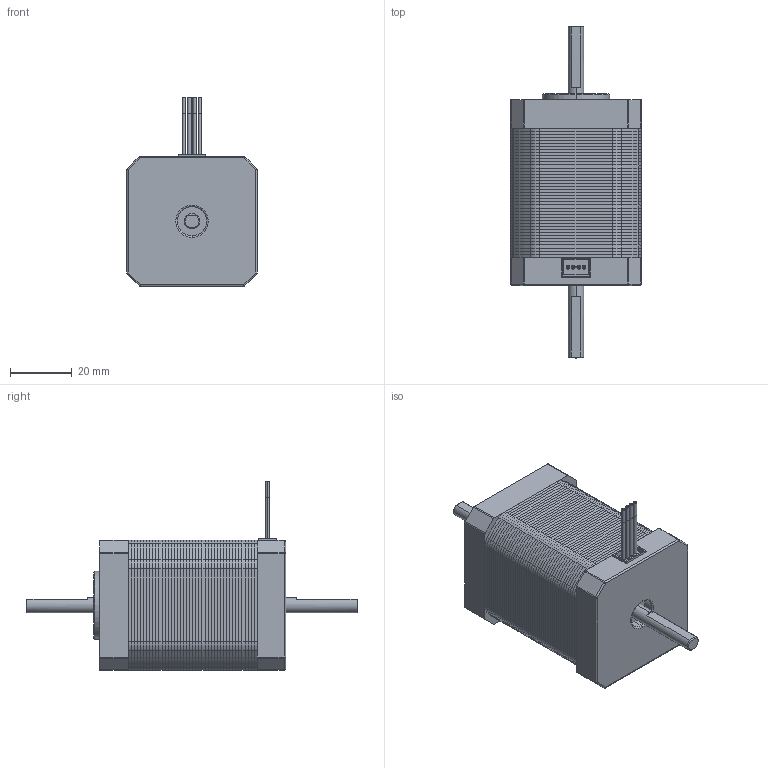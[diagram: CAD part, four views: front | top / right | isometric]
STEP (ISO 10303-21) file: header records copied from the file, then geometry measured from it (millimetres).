
FILE_DESCRIPTION (( 'STEP AP214' ), '1' );
FILE_NAME ('NEMA17_60mm_5mm_shaft_DS.STEP', '2020-11-14T13:44:50', ( 'Moofasta' ), ( '' ), 'SwSTEP 2.0', 'SolidWorks 2020', '' );
FILE_SCHEMA (( 'AUTOMOTIVE_DESIGN' ));
Length unit declared in the file: millimetre
Products named in the file (1): NEMA17_60mm_5mm_shaft_DS
Bounding box: 42.3 x 107.9 x 61.3 mm (x, y, z)
Volume: 104214.2 mm3; surface area: 159856.4 mm2
Topology: 53 solids, 53 shells, 920 faces, 2380 edges, 1567 vertices
Faces by surface type: cylinder 578, plane 317, cone 15, sphere 8, torus 2
Entity records: 37930 total; most frequent: DIRECTION 5389, CARTESIAN_POINT 4872, ORIENTED_EDGE 4744, EDGE_CURVE 2372, AXIS2_PLACEMENT_3D 2100, VERTEX_POINT 1567, LINE 1189, VECTOR 1189
